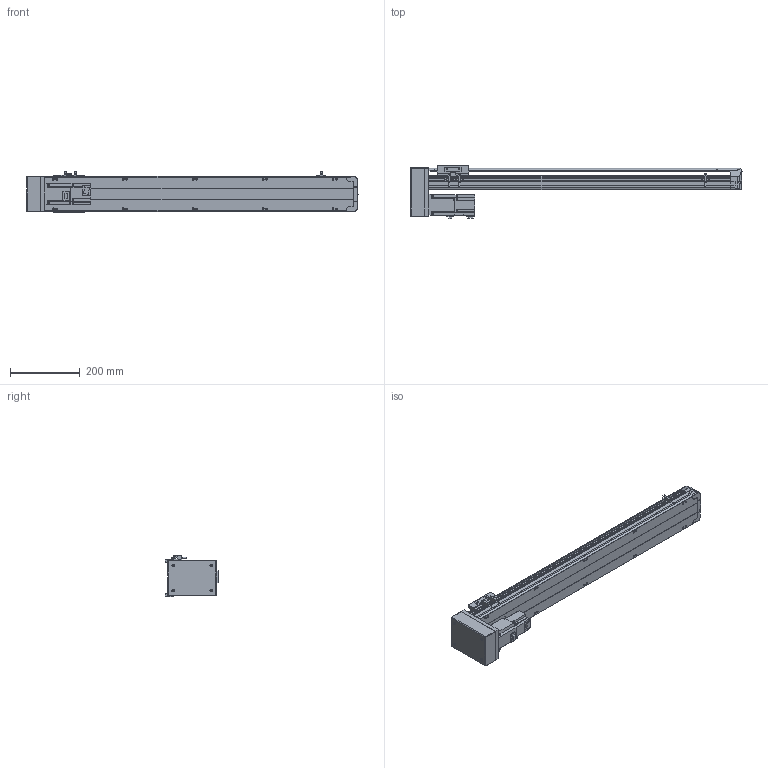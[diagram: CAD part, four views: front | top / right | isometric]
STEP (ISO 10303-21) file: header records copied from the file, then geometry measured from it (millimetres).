
FILE_DESCRIPTION(/* description */ ('STEP AP214'),/* implementation_level */ '2;1');
FILE_NAME(/* name */ 'PSS120-L10-S700-BM-T40-C1-N(0)',/* time_stamp */ '2022-06-06T02:26:48+02:00',/* author */ ('License CC BY-ND 4.0'),/* organization */ ('CADENAS'),/* preprocessor_version */ 'ST-DEVELOPER v18.102',/* originating_system */ 'PARTsolutions',/* authorisation */ ' ');
FILE_SCHEMA (('AUTOMOTIVE_DESIGN {1 0 10303 214 3 1 1}'));
Length unit declared in the file: millimetre
Products named in the file (8): PSS120-L10-S700-BM-T40-C1-N(0); PSS120-S700-BM-N_S; T40-p1; PSS120BM-N_h; PSS120-N_sensor; PSS120-BM-C1-N_sl; PSS120-N_Q; PSS120-S700-BM-C1-N_body
Assembly tree (9 placements, depth 2):
  PSS120-L10-S700-BM-T40-C1-N(0)
    PSS120-S700-BM-N_S
    T40-p1
    PSS120BM-N_h
    PSS120-N_sensor  x3
    PSS120-BM-C1-N_sl
    PSS120-N_Q
    PSS120-S700-BM-C1-N_body
Bounding box: 949.35 x 151.8 x 117.7 mm (x, y, z)
Volume: 3968241.9 mm3; surface area: 649815.3 mm2
Topology: 9 solids, 9 shells, 825 faces, 2221 edges, 1474 vertices
Faces by surface type: plane 574, cylinder 229, cone 18, sphere 4
Full cylindrical faces by diameter (mm): 2.8 x3, 4 x4, 4.134 x14, 4.4 x2, 4.5 x4, 4.6 x3, 5 x6, 5.5 x17, 7 x2, 7.4 x4, 8 x4, 8.5 x14, 14 x1, 28 x1, 32 x2, 50 x1
Entity records: 22295 total; most frequent: CARTESIAN_POINT 4050, DIRECTION 3705, ORIENTED_EDGE 3634, EDGE_CURVE 1817, LINE 1295, VECTOR 1295, VERTEX_POINT 1262, AXIS2_PLACEMENT_3D 1205
